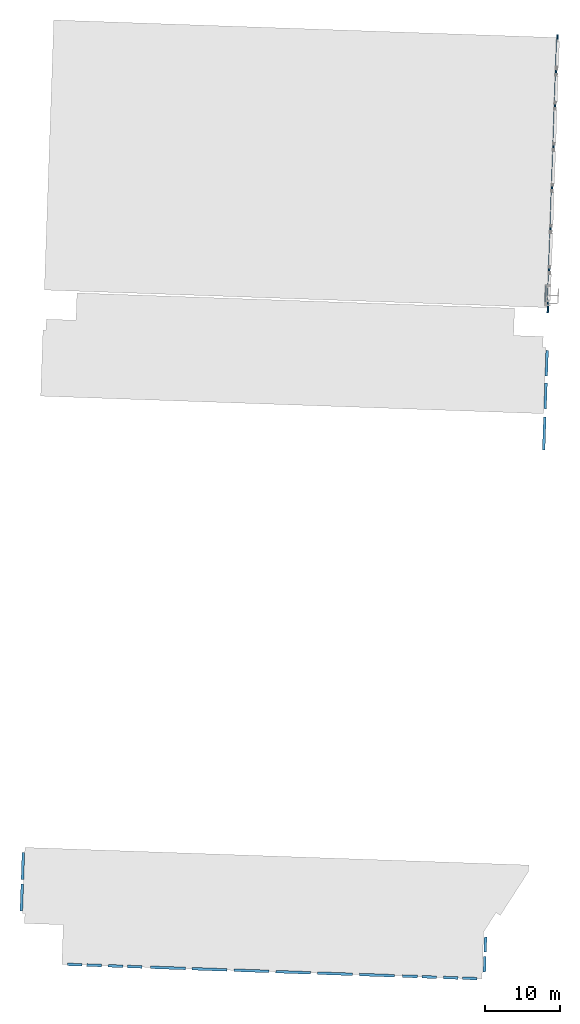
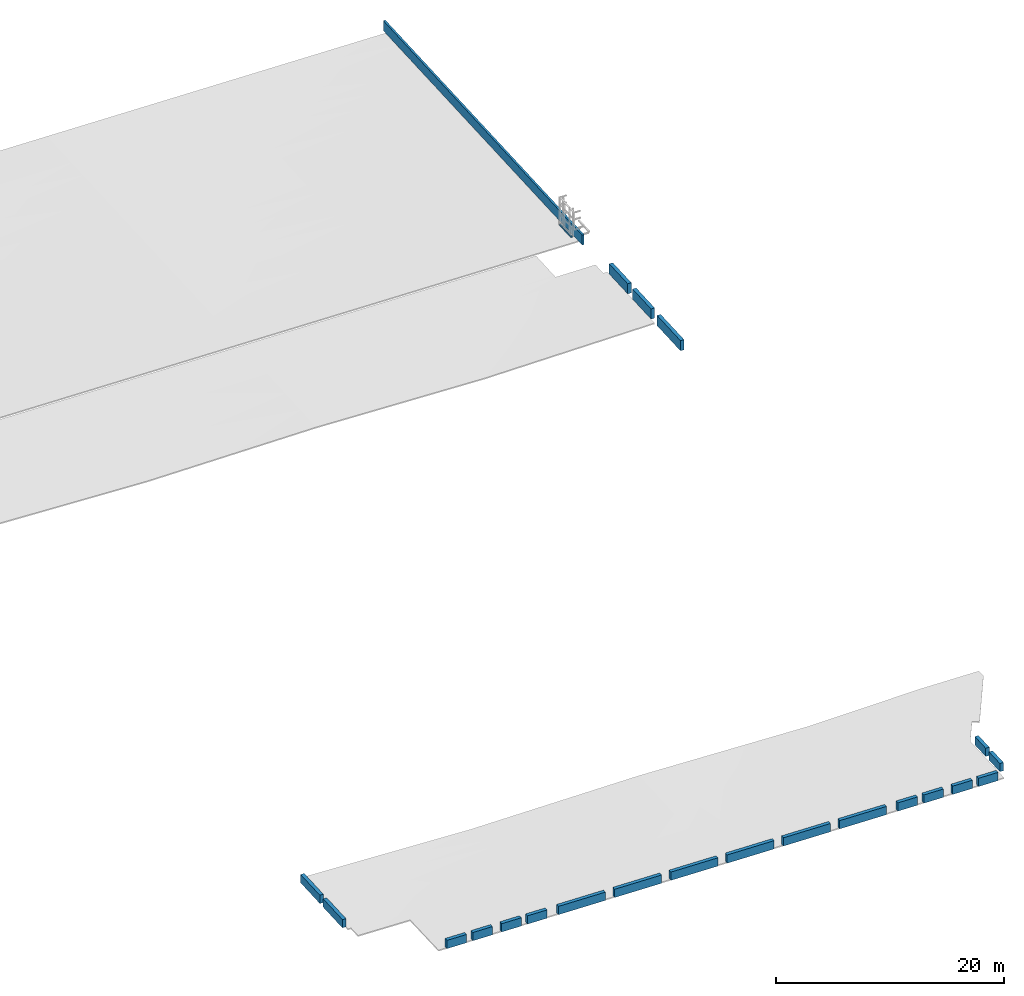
# One storey, part 5 of 8: 23 walls.
"""IFC2X3 building model written with IfcOpenShell, lengths in feet."""

from ifc_helpers import new_model, entity, si_unit, converted_unit, derived_unit, direction, frame, frame_2d, origin, place, context, subcontext, project, spatial, rectangle, extrude, material, layer, layer_set, layer_usage, type_object, element, save


model = new_model("IFC2X3")

# Units and contexts
model_context = context("Model", 3, precision=0.0001, world=origin(), true_north=direction((0.999390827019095, 0.0348994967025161)))
body_context = subcontext(model_context, "Body", "Model", "MODEL_VIEW")
ifc_project = project(units=[converted_unit("LENGTHUNIT", "FOOT", entity("IfcRatioMeasure", 0.3048), si_unit("LENGTHUNIT", "METRE"), dimensions=[1, 0, 0, 0, 0, 0, 0]), converted_unit("AREAUNIT", "SQUARE FOOT", entity("IfcRatioMeasure", 0.09290304), si_unit("AREAUNIT", "SQUARE_METRE"), dimensions=[2, 0, 0, 0, 0, 0, 0]), converted_unit("VOLUMEUNIT", "CUBIC FOOT", entity("IfcRatioMeasure", 0.028316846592), si_unit("VOLUMEUNIT", "CUBIC_METRE"), dimensions=[3, 0, 0, 0, 0, 0, 0]), converted_unit("PLANEANGLEUNIT", "DEGREE", entity("IfcRatioMeasure", 0.0174532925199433), si_unit("PLANEANGLEUNIT", "RADIAN"), dimensions=[0, 0, 0, 0, 0, 0, 0]), si_unit("MASSUNIT", "GRAM", prefix="KILO"), si_unit("TIMEUNIT", "SECOND"), si_unit("FREQUENCYUNIT", "HERTZ"), si_unit("THERMODYNAMICTEMPERATUREUNIT", "DEGREE_CELSIUS"), derived_unit("THERMALTRANSMITTANCEUNIT", [(si_unit("MASSUNIT", "GRAM", prefix="KILO"), 1), (si_unit("THERMODYNAMICTEMPERATUREUNIT", "KELVIN"), -1), (si_unit("TIMEUNIT", "SECOND"), -3)]), derived_unit("VOLUMETRICFLOWRATEUNIT", [(si_unit("LENGTHUNIT", "METRE"), 3), (si_unit("TIMEUNIT", "SECOND"), -1)]), si_unit("ELECTRICCURRENTUNIT", "AMPERE"), si_unit("ELECTRICVOLTAGEUNIT", "VOLT"), si_unit("POWERUNIT", "WATT"), si_unit("FORCEUNIT", "NEWTON"), si_unit("ILLUMINANCEUNIT", "LUX"), si_unit("LUMINOUSFLUXUNIT", "LUMEN"), si_unit("LUMINOUSINTENSITYUNIT", "CANDELA"), derived_unit("USERDEFINED", [(si_unit("MASSUNIT", "GRAM", prefix="KILO"), -1), (si_unit("LENGTHUNIT", "METRE"), -2), (si_unit("TIMEUNIT", "SECOND"), 3), (si_unit("LUMINOUSFLUXUNIT", "LUMEN"), 1)]), derived_unit("LINEARVELOCITYUNIT", [(si_unit("LENGTHUNIT", "METRE"), 1), (si_unit("TIMEUNIT", "SECOND"), -1)]), si_unit("PRESSUREUNIT", "PASCAL"), derived_unit("USERDEFINED", [(si_unit("LENGTHUNIT", "METRE"), -2), (si_unit("MASSUNIT", "GRAM", prefix="KILO"), 1), (si_unit("TIMEUNIT", "SECOND"), -2)])], contexts=[model_context])

# Site, building, storey
site_placement = place(None, frame((892.518771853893, 322.38689265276, 0.00393700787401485), z_axis=(0.0, 0.0, 1.0), x_axis=(0.0348994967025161, 0.999390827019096, 0.0)))
site = spatial("IfcSite", under=ifc_project, at=site_placement, Name="Default", CompositionType="ELEMENT")
building_placement = place(site_placement, origin())
building = spatial("IfcBuilding", under=site, at=building_placement, CompositionType="ELEMENT")
storey_placement = place(building_placement, frame((0.0, 0.0, 607.0)))
storey = spatial("IfcBuildingStorey", under=building, at=storey_placement, Name="Existing Garage - Roof Level", CompositionType="ELEMENT", Elevation=607.0)

# Walls
ifc_material_1 = material(Name="Masonry - Brick")
ifc_layer_1 = layer(ifc_material_1, 0.302083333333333)
ifc_material_2 = material(Name="Misc. Air Layers - Air Space")
ifc_layer_2 = layer(ifc_material_2, 0.197916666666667)
ifc_material_3 = material(Name="Concrete - Cast-in-Place Concrete_hatch surface")
ifc_layer_3 = layer(ifc_material_3, 0.666666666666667)
ifc_layer_set_1 = layer_set([ifc_layer_1, ifc_layer_2, ifc_layer_3], Name="Basic Wall:(existing)Exterior - Brick on Conc - 1'-2\"(2\" air space)")
ifc_layer_usage_1 = layer_usage(ifc_layer_set_1, "AXIS2", "POSITIVE", -0.583333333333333)
wall_type_1 = type_object("IfcWallType", Name="Basic Wall:(existing)Exterior - Brick on Conc - 1'-2\"(2\" air space)", PredefinedType="STANDARD", material=ifc_layer_set_1)
wall_1_placement = place(storey_placement, frame((74.4272968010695, 235.847286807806, 0.0)))
element("IfcWallStandardCase", 1, at=wall_1_placement, inside=storey, type_object=wall_type_1, material=ifc_layer_usage_1, Name="Basic Wall:(existing)Exterior - Brick on Conc - 1'-2\"(2\" air space)", ObjectType="Basic Wall:(existing)Exterior - Brick on Conc - 1'-2\"(2\" air space)", context=body_context, shape_type="SweptSolid", body=[
    extrude(rectangle(XDim=11.3333333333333, YDim=1.16666666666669, at=frame_2d((5.66666666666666, 0.0), x_axis=(-1.0, 0.0))), origin(), (0.0, 0.0, 1.0), 3.5625),
])
ifc_layer_usage_2 = layer_usage(ifc_layer_set_1, "AXIS2", "POSITIVE", -0.583333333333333)
wall_2_placement = place(storey_placement, frame((60.0939209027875, 235.847286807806, 0.0)))
element("IfcWallStandardCase", 2, at=wall_2_placement, inside=storey, type_object=wall_type_1, material=ifc_layer_usage_2, Name="Basic Wall:(existing)Exterior - Brick on Conc - 1'-2\"(2\" air space)", ObjectType="Basic Wall:(existing)Exterior - Brick on Conc - 1'-2\"(2\" air space)", context=body_context, shape_type="SweptSolid", body=[
    extrude(rectangle(XDim=11.333375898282, YDim=1.16666666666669, at=frame_2d((5.66668794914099, 0.0), x_axis=(-1.0, 0.0))), origin(), (0.0, 0.0, 1.0), 3.5625),
])
ifc_layer_usage_3 = layer_usage(ifc_layer_set_1, "AXIS2", "POSITIVE", -0.583333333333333)
wall_3_placement = place(storey_placement, frame((42.0939209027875, 235.847286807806, 0.0)))
element("IfcWallStandardCase", 3, at=wall_3_placement, inside=storey, type_object=wall_type_1, material=ifc_layer_usage_3, Name="Basic Wall:(existing)Exterior - Brick on Conc - 1'-2\"(2\" air space)", ObjectType="Basic Wall:(existing)Exterior - Brick on Conc - 1'-2\"(2\" air space)", context=body_context, shape_type="SweptSolid", body=[
    extrude(rectangle(XDim=14.3333333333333, YDim=1.16666666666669, at=frame_2d((7.16666666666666, 3.77475828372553e-15), x_axis=(-1.0, 0.0))), origin(), (0.0, 0.0, 1.0), 3.5625),
])
ifc_layer_usage_4 = layer_usage(ifc_layer_set_1, "AXIS2", "POSITIVE", -0.583333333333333)
wall_4_placement = place(storey_placement, frame((-187.572745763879, 253.847286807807, 0.0)))
element("IfcWallStandardCase", 4, at=wall_4_placement, inside=storey, type_object=wall_type_1, material=ifc_layer_usage_4, Name="Basic Wall:(existing)Exterior - Brick on Conc - 1'-2\"(2\" air space)", ObjectType="Basic Wall:(existing)Exterior - Brick on Conc - 1'-2\"(2\" air space)", context=body_context, shape_type="SweptSolid", body=[
    extrude(rectangle(XDim=6.66666666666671, YDim=1.16666666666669, at=frame_2d((3.33333333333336, -5.82867087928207e-15), x_axis=(-1.0, 0.0))), origin(), (0.0, 0.0, 1.0), 2.89583333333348),
])
ifc_layer_usage_5 = layer_usage(ifc_layer_set_1, "AXIS2", "POSITIVE", -0.583333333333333)
wall_5_placement = place(storey_placement, frame((-178.906079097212, 253.847286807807, 0.0)))
element("IfcWallStandardCase", 5, at=wall_5_placement, inside=storey, type_object=wall_type_1, material=ifc_layer_usage_5, Name="Basic Wall:(existing)Exterior - Brick on Conc - 1'-2\"(2\" air space)", ObjectType="Basic Wall:(existing)Exterior - Brick on Conc - 1'-2\"(2\" air space)", context=body_context, shape_type="SweptSolid", body=[
    extrude(rectangle(XDim=6.66666666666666, YDim=1.16666666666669, at=frame_2d((3.33333333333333, -5.82867087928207e-15), x_axis=(-1.0, 0.0))), origin(), (0.0, 0.0, 1.0), 2.89583333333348),
])
ifc_layer_usage_6 = layer_usage(ifc_layer_set_1, "AXIS2", "POSITIVE", -0.583333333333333)
wall_6_placement = place(storey_placement, frame((-190.656079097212, 436.597423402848, 0.0), z_axis=(0.0, 0.0, 1.0), x_axis=(0.0, -1.0, 0.0)))
element("IfcWallStandardCase", 6, at=wall_6_placement, inside=storey, type_object=wall_type_1, material=ifc_layer_usage_6, Name="Basic Wall:(existing)Exterior - Brick on Conc - 1'-2\"(2\" air space)", ObjectType="Basic Wall:(existing)Exterior - Brick on Conc - 1'-2\"(2\" air space)", context=body_context, shape_type="SweptSolid", body=[
    extrude(rectangle(XDim=6.41670081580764, YDim=1.16666666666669, at=frame_2d((3.20835040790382, -3.38618022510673e-15), x_axis=(-1.0, 0.0))), origin(), (0.0, 0.0, 1.0), 2.89583333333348),
])
ifc_layer_usage_7 = layer_usage(ifc_layer_set_1, "AXIS2", "POSITIVE", -0.583333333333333)
wall_7_placement = place(storey_placement, frame((-190.656079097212, 428.180722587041, 0.0), z_axis=(0.0, 0.0, 1.0), x_axis=(0.0, -1.0, 0.0)))
element("IfcWallStandardCase", 7, at=wall_7_placement, inside=storey, type_object=wall_type_1, material=ifc_layer_usage_7, Name="Basic Wall:(existing)Exterior - Brick on Conc - 1'-2\"(2\" air space)", ObjectType="Basic Wall:(existing)Exterior - Brick on Conc - 1'-2\"(2\" air space)", context=body_context, shape_type="SweptSolid", body=[
    extrude(rectangle(XDim=6.41670081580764, YDim=1.16666666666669, at=frame_2d((3.20835040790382, -3.38618022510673e-15), x_axis=(-1.0, 0.0))), origin(), (0.0, 0.0, 1.0), 2.89583333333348),
])
ifc_layer_usage_8 = layer_usage(ifc_layer_set_1, "AXIS2", "POSITIVE", -0.583333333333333)
wall_8_placement = place(storey_placement, frame((-190.656079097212, 418.764021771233, 0.0), z_axis=(0.0, 0.0, 1.0), x_axis=(0.0, -1.0, 0.0)))
element("IfcWallStandardCase", 8, at=wall_8_placement, inside=storey, type_object=wall_type_1, material=ifc_layer_usage_8, Name="Basic Wall:(existing)Exterior - Brick on Conc - 1'-2\"(2\" air space)", ObjectType="Basic Wall:(existing)Exterior - Brick on Conc - 1'-2\"(2\" air space)", context=body_context, shape_type="SweptSolid", body=[
    extrude(rectangle(XDim=6.41670081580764, YDim=1.16666666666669, at=frame_2d((3.20835040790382, -3.38618022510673e-15), x_axis=(-1.0, 0.0))), origin(), (0.0, 0.0, 1.0), 2.89583333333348),
])
ifc_layer_usage_9 = layer_usage(ifc_layer_set_1, "AXIS2", "POSITIVE", -0.583333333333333)
wall_9_placement = place(storey_placement, frame((-190.656079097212, 410.347320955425, 0.0), z_axis=(0.0, 0.0, 1.0), x_axis=(0.0, -1.0, 0.0)))
element("IfcWallStandardCase", 9, at=wall_9_placement, inside=storey, type_object=wall_type_1, material=ifc_layer_usage_9, Name="Basic Wall:(existing)Exterior - Brick on Conc - 1'-2\"(2\" air space)", ObjectType="Basic Wall:(existing)Exterior - Brick on Conc - 1'-2\"(2\" air space)", context=body_context, shape_type="SweptSolid", body=[
    extrude(rectangle(XDim=6.41670081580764, YDim=1.16666666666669, at=frame_2d((3.20835040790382, -3.38618022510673e-15), x_axis=(-1.0, 0.0))), origin(), (0.0, 0.0, 1.0), 2.89583333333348),
])
ifc_layer_usage_10 = layer_usage(ifc_layer_set_1, "AXIS2", "POSITIVE", -0.583333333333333)
wall_10_placement = place(storey_placement, frame((-190.656079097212, 400.263953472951, 0.0), z_axis=(0.0, 0.0, 1.0), x_axis=(0.0, -1.0, 0.0)))
element("IfcWallStandardCase", 10, at=wall_10_placement, inside=storey, type_object=wall_type_1, material=ifc_layer_usage_10, Name="Basic Wall:(existing)Exterior - Brick on Conc - 1'-2\"(2\" air space)", ObjectType="Basic Wall:(existing)Exterior - Brick on Conc - 1'-2\"(2\" air space)", context=body_context, shape_type="SweptSolid", body=[
    extrude(rectangle(XDim=15.3333333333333, YDim=1.16666666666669, at=frame_2d((7.66666666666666, 6.10622663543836e-16), x_axis=(-1.0, 0.0))), origin(), (0.0, 0.0, 1.0), 2.89583333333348),
])
ifc_layer_usage_11 = layer_usage(ifc_layer_set_1, "AXIS2", "POSITIVE", -0.583333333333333)
wall_11_placement = place(storey_placement, frame((-190.656079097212, 381.930620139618, 0.0), z_axis=(0.0, 0.0, 1.0), x_axis=(0.0, -1.0, 0.0)))
element("IfcWallStandardCase", 11, at=wall_11_placement, inside=storey, type_object=wall_type_1, material=ifc_layer_usage_11, Name="Basic Wall:(existing)Exterior - Brick on Conc - 1'-2\"(2\" air space)", ObjectType="Basic Wall:(existing)Exterior - Brick on Conc - 1'-2\"(2\" air space)", context=body_context, shape_type="SweptSolid", body=[
    extrude(rectangle(XDim=15.3333333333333, YDim=1.16666666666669, at=frame_2d((7.66666666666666, 6.10622663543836e-16), x_axis=(-1.0, 0.0))), origin(), (0.0, 0.0, 1.0), 2.89583333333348),
])
ifc_layer_usage_12 = layer_usage(ifc_layer_set_1, "AXIS2", "POSITIVE", -0.583333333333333)
wall_12_placement = place(storey_placement, frame((-190.656079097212, 363.597286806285, 0.0), z_axis=(0.0, 0.0, 1.0), x_axis=(0.0, -1.0, 0.0)))
element("IfcWallStandardCase", 12, at=wall_12_placement, inside=storey, type_object=wall_type_1, material=ifc_layer_usage_12, Name="Basic Wall:(existing)Exterior - Brick on Conc - 1'-2\"(2\" air space)", ObjectType="Basic Wall:(existing)Exterior - Brick on Conc - 1'-2\"(2\" air space)", context=body_context, shape_type="SweptSolid", body=[
    extrude(rectangle(XDim=15.3333333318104, YDim=1.16666666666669, at=frame_2d((7.66666666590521, 6.10622663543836e-16), x_axis=(-1.0, 0.0))), origin(), (0.0, 0.0, 1.0), 2.89583333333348),
])
ifc_layer_usage_13 = layer_usage(ifc_layer_set_1, "AXIS2", "POSITIVE", -0.583333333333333)
wall_13_placement = place(storey_placement, frame((-190.656079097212, 345.263953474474, 0.0), z_axis=(0.0, 0.0, 1.0), x_axis=(0.0, -1.0, 0.0)))
element("IfcWallStandardCase", 13, at=wall_13_placement, inside=storey, type_object=wall_type_1, material=ifc_layer_usage_13, Name="Basic Wall:(existing)Exterior - Brick on Conc - 1'-2\"(2\" air space)", ObjectType="Basic Wall:(existing)Exterior - Brick on Conc - 1'-2\"(2\" air space)", context=body_context, shape_type="SweptSolid", body=[
    extrude(rectangle(XDim=15.3331147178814, YDim=1.16666666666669, at=frame_2d((7.66655735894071, 6.10622663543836e-16), x_axis=(-1.0, 0.0))), origin(), (0.0, 0.0, 1.0), 2.89583333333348),
])
ifc_layer_usage_14 = layer_usage(ifc_layer_set_1, "AXIS2", "POSITIVE", -0.583333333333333)
wall_14_placement = place(storey_placement, frame((-190.656079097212, 326.930838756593, 0.0), z_axis=(0.0, 0.0, 1.0), x_axis=(0.0, -1.0, 0.0)))
element("IfcWallStandardCase", 14, at=wall_14_placement, inside=storey, type_object=wall_type_1, material=ifc_layer_usage_14, Name="Basic Wall:(existing)Exterior - Brick on Conc - 1'-2\"(2\" air space)", ObjectType="Basic Wall:(existing)Exterior - Brick on Conc - 1'-2\"(2\" air space)", context=body_context, shape_type="SweptSolid", body=[
    extrude(rectangle(XDim=15.3333333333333, YDim=1.16666666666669, at=frame_2d((7.66666666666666, 6.10622663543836e-16), x_axis=(-1.0, 0.0))), origin(), (0.0, 0.0, 1.0), 2.89583333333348),
])
ifc_layer_usage_15 = layer_usage(ifc_layer_set_1, "AXIS2", "POSITIVE", -0.583333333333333)
wall_15_placement = place(storey_placement, frame((-190.656079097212, 308.59750542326, 0.0), z_axis=(0.0, 0.0, 1.0), x_axis=(0.0, -1.0, 0.0)))
element("IfcWallStandardCase", 15, at=wall_15_placement, inside=storey, type_object=wall_type_1, material=ifc_layer_usage_15, Name="Basic Wall:(existing)Exterior - Brick on Conc - 1'-2\"(2\" air space)", ObjectType="Basic Wall:(existing)Exterior - Brick on Conc - 1'-2\"(2\" air space)", context=body_context, shape_type="SweptSolid", body=[
    extrude(rectangle(XDim=15.3333333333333, YDim=1.16666666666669, at=frame_2d((7.66666666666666, 6.10622663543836e-16), x_axis=(-1.0, 0.0))), origin(), (0.0, 0.0, 1.0), 2.89583333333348),
])
ifc_layer_usage_16 = layer_usage(ifc_layer_set_1, "AXIS2", "POSITIVE", -0.583333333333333)
wall_16_placement = place(storey_placement, frame((-190.656079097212, 289.597286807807, 0.0), z_axis=(0.0, 0.0, 1.0), x_axis=(0.0, -1.0, 0.0)))
element("IfcWallStandardCase", 16, at=wall_16_placement, inside=storey, type_object=wall_type_1, material=ifc_layer_usage_16, Name="Basic Wall:(existing)Exterior - Brick on Conc - 1'-2\"(2\" air space)", ObjectType="Basic Wall:(existing)Exterior - Brick on Conc - 1'-2\"(2\" air space)", context=body_context, shape_type="SweptSolid", body=[
    extrude(rectangle(XDim=6.41666666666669, YDim=1.16666666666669, at=frame_2d((3.20833333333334, -3.38618022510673e-15), x_axis=(-1.0, 0.0))), origin(), (0.0, 0.0, 1.0), 2.89583333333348),
])
ifc_layer_usage_17 = layer_usage(ifc_layer_set_1, "AXIS2", "POSITIVE", -0.583333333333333)
wall_17_placement = place(storey_placement, frame((-190.656079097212, 281.180620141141, 0.0), z_axis=(0.0, 0.0, 1.0), x_axis=(0.0, -1.0, 0.0)))
element("IfcWallStandardCase", 17, at=wall_17_placement, inside=storey, type_object=wall_type_1, material=ifc_layer_usage_17, Name="Basic Wall:(existing)Exterior - Brick on Conc - 1'-2\"(2\" air space)", ObjectType="Basic Wall:(existing)Exterior - Brick on Conc - 1'-2\"(2\" air space)", context=body_context, shape_type="SweptSolid", body=[
    extrude(rectangle(XDim=6.41666666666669, YDim=1.16666666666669, at=frame_2d((3.20833333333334, -3.38618022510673e-15), x_axis=(-1.0, 0.0))), origin(), (0.0, 0.0, 1.0), 2.89583333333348),
])
ifc_layer_usage_18 = layer_usage(ifc_layer_set_1, "AXIS2", "POSITIVE", -0.583333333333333)
wall_18_placement = place(storey_placement, frame((-190.656079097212, 271.763953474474, 0.0), z_axis=(0.0, 0.0, 1.0), x_axis=(0.0, -1.0, 0.0)))
element("IfcWallStandardCase", 18, at=wall_18_placement, inside=storey, type_object=wall_type_1, material=ifc_layer_usage_18, Name="Basic Wall:(existing)Exterior - Brick on Conc - 1'-2\"(2\" air space)", ObjectType="Basic Wall:(existing)Exterior - Brick on Conc - 1'-2\"(2\" air space)", context=body_context, shape_type="SweptSolid", body=[
    extrude(rectangle(XDim=6.41666666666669, YDim=1.16666666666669, at=frame_2d((3.20833333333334, -3.38618022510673e-15), x_axis=(-1.0, 0.0))), origin(), (0.0, 0.0, 1.0), 2.89583333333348),
])
ifc_layer_usage_19 = layer_usage(ifc_layer_set_1, "AXIS2", "POSITIVE", -0.583333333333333)
wall_19_placement = place(storey_placement, frame((-190.656079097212, 263.347286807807, 0.0), z_axis=(0.0, 0.0, 1.0), x_axis=(0.0, -1.0, 0.0)))
element("IfcWallStandardCase", 19, at=wall_19_placement, inside=storey, type_object=wall_type_1, material=ifc_layer_usage_19, Name="Basic Wall:(existing)Exterior - Brick on Conc - 1'-2\"(2\" air space)", ObjectType="Basic Wall:(existing)Exterior - Brick on Conc - 1'-2\"(2\" air space)", context=body_context, shape_type="SweptSolid", body=[
    extrude(rectangle(XDim=6.4166666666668, YDim=1.16666666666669, at=frame_2d((3.2083333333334, -3.38618022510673e-15), x_axis=(-1.0, 0.0))), origin(), (0.0, 0.0, 1.0), 2.89583333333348),
])
ifc_layer_usage_20 = layer_usage(ifc_layer_set_1, "AXIS2", "POSITIVE", -0.583333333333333)
wall_20_placement = place(storey_placement, frame((-156.072745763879, 457.680620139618, 0.0), z_axis=(0.0, 0.0, 1.0), x_axis=(-1.0, 0.0, 0.0)))
element("IfcWallStandardCase", 20, at=wall_20_placement, inside=storey, type_object=wall_type_1, material=ifc_layer_usage_20, Name="Basic Wall:(existing)Exterior - Brick on Conc - 1'-2\"(2\" air space)", ObjectType="Basic Wall:(existing)Exterior - Brick on Conc - 1'-2\"(2\" air space)", context=body_context, shape_type="SweptSolid", body=[
    extrude(rectangle(XDim=11.8333333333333, YDim=1.16666666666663, at=frame_2d((5.91666666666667, -5.32907051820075e-15), x_axis=(-1.0, 0.0))), origin(), (0.0, 0.0, 1.0), 2.89583333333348),
])
ifc_layer_usage_21 = layer_usage(ifc_layer_set_1, "AXIS2", "NEGATIVE", 0.583333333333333)
wall_21_placement = place(storey_placement, frame((-154.072745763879, 457.680620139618, 0.0)))
element("IfcWallStandardCase", 21, at=wall_21_placement, inside=storey, type_object=wall_type_1, material=ifc_layer_usage_21, Name="Basic Wall:(existing)Exterior - Brick on Conc - 1'-2\"(2\" air space)", ObjectType="Basic Wall:(existing)Exterior - Brick on Conc - 1'-2\"(2\" air space)", context=body_context, shape_type="SweptSolid", body=[
    extrude(rectangle(XDim=11.8333333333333, YDim=1.16666666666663, at=frame_2d((5.91666666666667, 5.32907051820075e-15), x_axis=(-1.0, 0.0))), origin(), (0.0, 0.0, 1.0), 2.89583333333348),
])
ifc_material_4 = material(Name="Concrete - Cast-in-Place Concrete")
ifc_layer_4 = layer(ifc_material_4, 0.666666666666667)
ifc_layer_set_2 = layer_set([ifc_layer_4], Name="Basic Wall:Exterior - Conc 8\"")
ifc_layer_usage_22 = layer_usage(ifc_layer_set_2, "AXIS2", "NEGATIVE", 0.333333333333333)
wall_type_2 = type_object("IfcWallType", Name="Basic Wall:Exterior - Conc 8\"", PredefinedType="STANDARD", material=ifc_layer_set_2)
wall_22_placement = place(storey_placement, frame((224.1252097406, 236.180620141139, 0.0), z_axis=(0.0, 0.0, 1.0), x_axis=(-1.0, 0.0, 0.0)))
element("IfcWallStandardCase", 22, at=wall_22_placement, inside=storey, type_object=wall_type_2, material=ifc_layer_usage_22, Name="Basic Wall:Exterior - Conc 8\"", ObjectType="Basic Wall:Exterior - Conc 8\"", context=body_context, shape_type="SweptSolid", body=[
    extrude(rectangle(XDim=121.932291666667, YDim=0.666666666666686, at=frame_2d((60.9661458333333, 3.66373598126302e-15), x_axis=(-1.0, 0.0))), origin(), (0.0, 0.0, 1.0), 3.5),
])
ifc_layer_5 = layer(ifc_material_4, 0.5)
ifc_layer_set_3 = layer_set([ifc_layer_5], Name="Basic Wall:Exterior - Conc 6\"")
ifc_layer_usage_23 = layer_usage(ifc_layer_set_3, "AXIS2", "NEGATIVE", 0.25)
wall_type_3 = type_object("IfcWallType", Name="Basic Wall:Exterior - Conc 6\"", PredefinedType="STANDARD", material=ifc_layer_set_3)
wall_23_placement = place(storey_placement, frame((106.927293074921, 237.43062014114, 0.0)))
element("IfcWallStandardCase", 23, at=wall_23_placement, inside=storey, type_object=wall_type_3, material=ifc_layer_usage_23, Name="Basic Wall:Exterior - Conc 6\"", ObjectType="Basic Wall:Exterior - Conc 6\"", context=body_context, shape_type="SweptSolid", body=[
    extrude(rectangle(XDim=7.00000372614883, YDim=0.5, at=frame_2d((3.50000186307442, -9.43689570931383e-16), x_axis=(-1.0, 0.0))), origin(), (0.0, 0.0, 1.0), 0.666666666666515),
])

save(model, "model.ifc")
